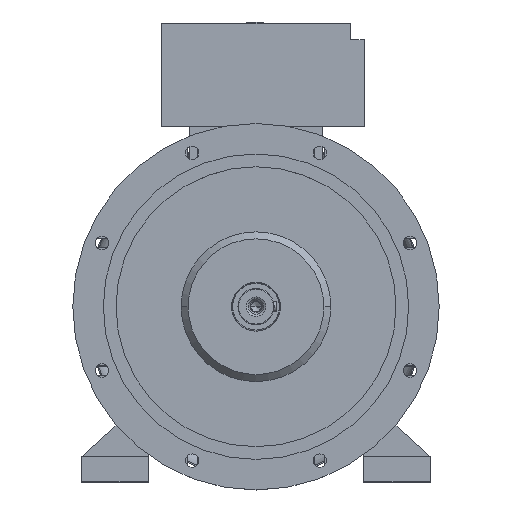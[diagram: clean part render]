
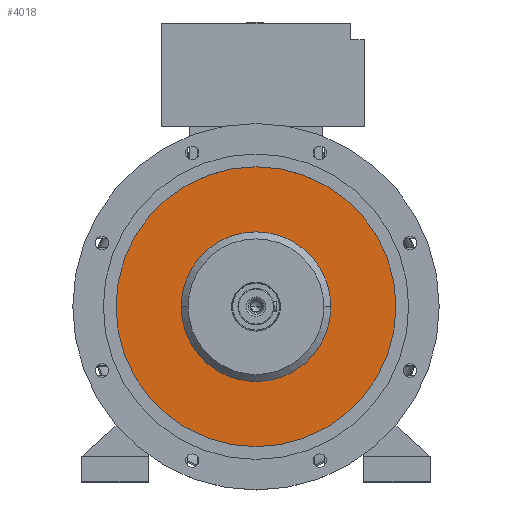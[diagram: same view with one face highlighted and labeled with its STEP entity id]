
A CAD part, top view. The second image highlights one B-rep face of the part: STEP entity #4018.
In plain terms, the highlighted planar face has unit normal (0, 0, 1).
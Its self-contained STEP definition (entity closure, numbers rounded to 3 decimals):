
#136 = CARTESIAN_POINT ( 'NONE',  ( 134.8, 0., 455.4 ) ) ;
#314 = CARTESIAN_POINT ( 'NONE',  ( 0., 0., 455.4 ) ) ;
#592 = DIRECTION ( 'NONE',  ( -1., 0., 0. ) ) ;
#735 = VERTEX_POINT ( 'NONE', #18892 ) ;
#1655 = AXIS2_PLACEMENT_3D ( 'NONE', #8749, #12726, #592 ) ;
#1895 = DIRECTION ( 'NONE',  ( 1., 0., 0. ) ) ;
#2312 = DIRECTION ( 'NONE',  ( -1., 0., 0. ) ) ;
#3717 = ORIENTED_EDGE ( 'NONE', *, *, #9114, .T. ) ;
#3877 = EDGE_LOOP ( 'NONE', ( #21926, #3717 ) ) ;
#4018 = ADVANCED_FACE ( 'NONE', ( #6040, #4420 ), #16629, .T. ) ;
#4242 = CARTESIAN_POINT ( 'NONE',  ( 0., 252.083, 455.4 ) ) ;
#4420 = FACE_OUTER_BOUND ( 'NONE', #3877, .T. ) ;
#4897 = EDGE_LOOP ( 'NONE', ( #5822, #20848 ) ) ;
#4921 = CIRCLE ( 'NONE', #1655, 252.083 ) ;
#5030 = CIRCLE ( 'NONE', #25097, 252.083 ) ;
#5822 = ORIENTED_EDGE ( 'NONE', *, *, #16605, .T. ) ;
#6040 = FACE_BOUND ( 'NONE', #4897, .T. ) ;
#6045 = DIRECTION ( 'NONE',  ( 0., 0., 1. ) ) ;
#7223 = AXIS2_PLACEMENT_3D ( 'NONE', #4242, #6045, #1895 ) ;
#8055 = DIRECTION ( 'NONE',  ( 0., 0., -1. ) ) ;
#8749 = CARTESIAN_POINT ( 'NONE',  ( 0., 0., 455.4 ) ) ;
#9114 = EDGE_CURVE ( 'NONE', #12252, #735, #4921, .T. ) ;
#10888 = AXIS2_PLACEMENT_3D ( 'NONE', #20805, #22869, #14251 ) ;
#12252 = VERTEX_POINT ( 'NONE', #21049 ) ;
#12726 = DIRECTION ( 'NONE',  ( 0., 0., 1. ) ) ;
#12796 = CIRCLE ( 'NONE', #10888, 134.8 ) ;
#14251 = DIRECTION ( 'NONE',  ( -1., 0., 0. ) ) ;
#14287 = DIRECTION ( 'NONE',  ( -1., 0., 0. ) ) ;
#14480 = CIRCLE ( 'NONE', #19723, 134.8 ) ;
#15239 = VERTEX_POINT ( 'NONE', #136 ) ;
#15601 = EDGE_CURVE ( 'NONE', #15239, #16641, #14480, .T. ) ;
#16605 = EDGE_CURVE ( 'NONE', #16641, #15239, #12796, .T. ) ;
#16629 = PLANE ( 'NONE',  #7223 ) ;
#16641 = VERTEX_POINT ( 'NONE', #25112 ) ;
#16695 = EDGE_CURVE ( 'NONE', #735, #12252, #5030, .T. ) ;
#18892 = CARTESIAN_POINT ( 'NONE',  ( -252.083, 0., 455.4 ) ) ;
#19723 = AXIS2_PLACEMENT_3D ( 'NONE', #20749, #8055, #14287 ) ;
#20749 = CARTESIAN_POINT ( 'NONE',  ( 0., 0., 455.4 ) ) ;
#20805 = CARTESIAN_POINT ( 'NONE',  ( 0., 0., 455.4 ) ) ;
#20848 = ORIENTED_EDGE ( 'NONE', *, *, #15601, .T. ) ;
#21049 = CARTESIAN_POINT ( 'NONE',  ( 252.083, 0., 455.4 ) ) ;
#21146 = DIRECTION ( 'NONE',  ( 0., 0., 1. ) ) ;
#21926 = ORIENTED_EDGE ( 'NONE', *, *, #16695, .T. ) ;
#22869 = DIRECTION ( 'NONE',  ( 0., 0., -1. ) ) ;
#25097 = AXIS2_PLACEMENT_3D ( 'NONE', #314, #21146, #2312 ) ;
#25112 = CARTESIAN_POINT ( 'NONE',  ( -134.8, 0., 455.4 ) ) ;
